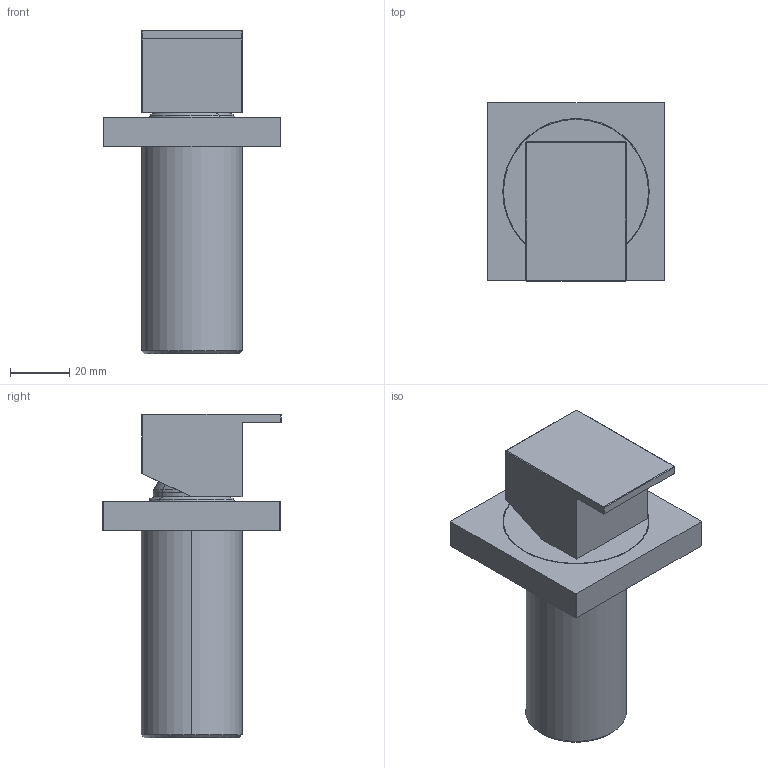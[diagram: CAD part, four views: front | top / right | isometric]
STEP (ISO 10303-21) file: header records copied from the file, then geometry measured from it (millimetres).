
FILE_DESCRIPTION (( 'STEP AP203' ), '1' );
FILE_NAME ('H5T25.STEP', '2023-10-17T13:22:19', ( '' ), ( '' ), 'SwSTEP 2.0', 'SolidWorks 2021', '' );
FILE_SCHEMA (( 'CONFIG_CONTROL_DESIGN' ));
Length unit declared in the file: millimetre
Products named in the file (10): C24.0119.00.2; C47.00.0023.01; C24.0010.00.0; C24.0105.00.0; C11.14.0019; C12.00.0043; C10.00.0013; H5T25; C24.0120.00.1; C24.0495.00.0
Assembly tree (9 placements, depth 2):
  H5T25
    C24.0010.00.0
    C24.0105.00.0
    C12.00.0043
    C24.0119.00.2
    C24.0120.00.1
    C10.00.0013
    C24.0495.00.0
    C11.14.0019
    C47.00.0023.01
Bounding box: 60 x 60.2 x 109.41 mm (x, y, z)
Volume: 84711.6 mm3; surface area: 50596.3 mm2
Topology: 8 solids, 18 shells, 795 faces, 2329 edges, 1540 vertices
Faces by surface type: cylinder 295, plane 279, cone 105, bspline 94, torus 22
Entity records: 31954 total; most frequent: CARTESIAN_POINT 11203, ORIENTED_EDGE 4158, DIRECTION 3827, EDGE_CURVE 2309, VERTEX_POINT 1540, AXIS2_PLACEMENT_3D 1459, LINE 909, VECTOR 909
